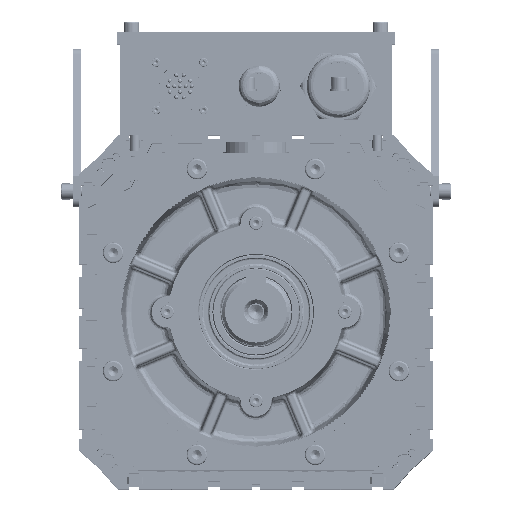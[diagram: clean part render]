
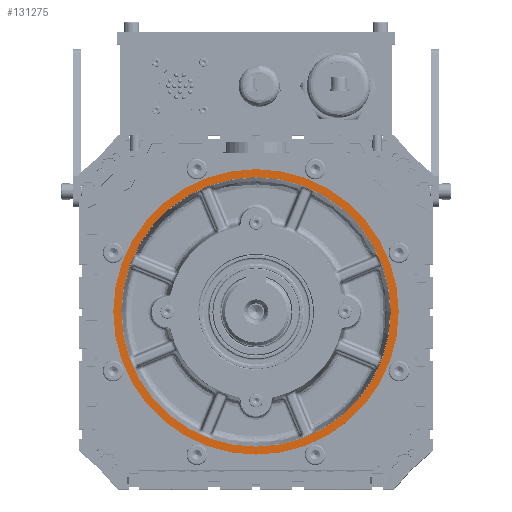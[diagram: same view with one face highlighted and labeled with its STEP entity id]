
A CAD part, top view. The second image highlights one B-rep face of the part: STEP entity #131275.
In plain terms, the highlighted planar face has unit normal (0, 0, 1) as drawn and (0, 0, -1) by its records, which use the part's own axes.
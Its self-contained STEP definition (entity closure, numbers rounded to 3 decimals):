
#8666 = CARTESIAN_POINT ( 'NONE',  ( 61.636, -25.305, 205. ) ) ;
#11513 = CIRCLE ( 'NONE', #89390, 85. ) ;
#17838 = AXIS2_PLACEMENT_3D ( 'NONE', #77296, #93164, #62748 ) ;
#19829 = FACE_OUTER_BOUND ( 'NONE', #63182, .T. ) ;
#20719 = ORIENTED_EDGE ( 'NONE', *, *, #82511, .F. ) ;
#21243 = CARTESIAN_POINT ( 'NONE',  ( -118.364, -25.305, 205. ) ) ;
#29253 = DIRECTION ( 'NONE',  ( -1., 0., 0. ) ) ;
#30647 = ORIENTED_EDGE ( 'NONE', *, *, #152600, .F. ) ;
#31917 = DIRECTION ( 'NONE',  ( -1., 0., 0. ) ) ;
#60553 = EDGE_LOOP ( 'NONE', ( #20719, #30647 ) ) ;
#62748 = DIRECTION ( 'NONE',  ( 1., 0., 0. ) ) ;
#63182 = EDGE_LOOP ( 'NONE', ( #112377, #116933 ) ) ;
#64544 = CIRCLE ( 'NONE', #74107, 90. ) ;
#66298 = EDGE_CURVE ( 'NONE', #99814, #102315, #166380, .T. ) ;
#66781 = CIRCLE ( 'NONE', #116947, 85. ) ;
#67918 = DIRECTION ( 'NONE',  ( -1., 0., 0. ) ) ;
#72991 = AXIS2_PLACEMENT_3D ( 'NONE', #89838, #175581, #31917 ) ;
#74107 = AXIS2_PLACEMENT_3D ( 'NONE', #158105, #169549, #82526 ) ;
#77296 = CARTESIAN_POINT ( 'NONE',  ( -28.364, -115.305, 205. ) ) ;
#82511 = EDGE_CURVE ( 'NONE', #104323, #168997, #66781, .T. ) ;
#82526 = DIRECTION ( 'NONE',  ( -1., 0., 0. ) ) ;
#89390 = AXIS2_PLACEMENT_3D ( 'NONE', #162740, #146903, #29253 ) ;
#89838 = CARTESIAN_POINT ( 'NONE',  ( -28.364, -25.305, 205. ) ) ;
#93164 = DIRECTION ( 'NONE',  ( 0., 0., 1. ) ) ;
#99002 = EDGE_CURVE ( 'NONE', #102315, #99814, #64544, .T. ) ;
#99814 = VERTEX_POINT ( 'NONE', #8666 ) ;
#102315 = VERTEX_POINT ( 'NONE', #21243 ) ;
#104323 = VERTEX_POINT ( 'NONE', #128462 ) ;
#112377 = ORIENTED_EDGE ( 'NONE', *, *, #99002, .F. ) ;
#116933 = ORIENTED_EDGE ( 'NONE', *, *, #66298, .F. ) ;
#116947 = AXIS2_PLACEMENT_3D ( 'NONE', #127067, #170884, #67918 ) ;
#127067 = CARTESIAN_POINT ( 'NONE',  ( -28.364, -25.305, 205. ) ) ;
#128462 = CARTESIAN_POINT ( 'NONE',  ( -113.364, -25.305, 205. ) ) ;
#131275 = ADVANCED_FACE ( 'NONE', ( #19829, #172261 ), #135814, .F. ) ;
#135814 = PLANE ( 'NONE',  #17838 ) ;
#146903 = DIRECTION ( 'NONE',  ( 0., 0., -1. ) ) ;
#152600 = EDGE_CURVE ( 'NONE', #168997, #104323, #11513, .T. ) ;
#158105 = CARTESIAN_POINT ( 'NONE',  ( -28.364, -25.305, 205. ) ) ;
#162740 = CARTESIAN_POINT ( 'NONE',  ( -28.364, -25.305, 205. ) ) ;
#166380 = CIRCLE ( 'NONE', #72991, 90. ) ;
#168997 = VERTEX_POINT ( 'NONE', #174433 ) ;
#169549 = DIRECTION ( 'NONE',  ( 0., 0., 1. ) ) ;
#170884 = DIRECTION ( 'NONE',  ( 0., 0., -1. ) ) ;
#172261 = FACE_BOUND ( 'NONE', #60553, .T. ) ;
#174433 = CARTESIAN_POINT ( 'NONE',  ( 56.636, -25.305, 205. ) ) ;
#175581 = DIRECTION ( 'NONE',  ( 0., 0., 1. ) ) ;
